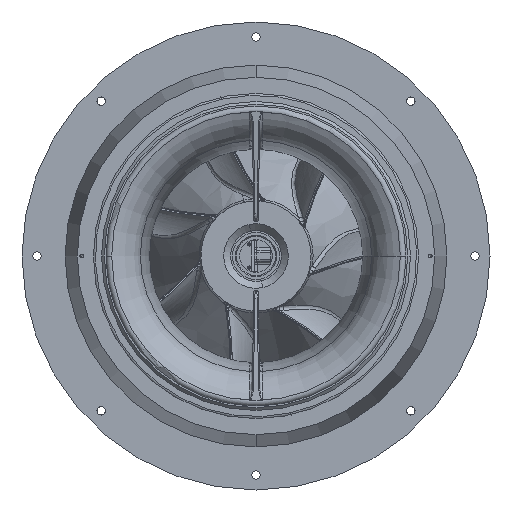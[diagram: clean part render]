
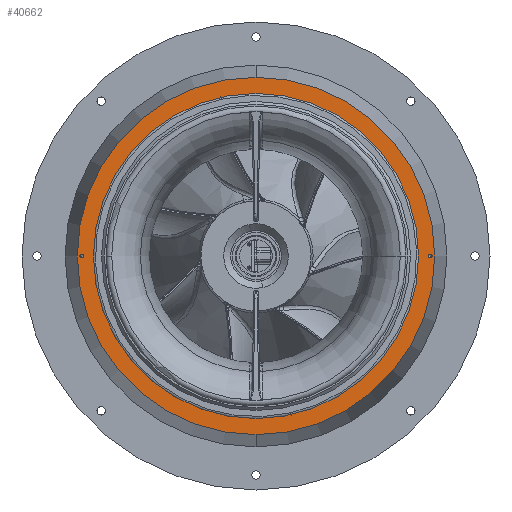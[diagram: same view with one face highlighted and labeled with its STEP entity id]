
A CAD part, front view. The second image highlights one B-rep face of the part: STEP entity #40662.
In plain terms, the highlighted planar face has unit normal (0, -1, 0).
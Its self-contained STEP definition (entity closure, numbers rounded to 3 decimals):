
#1690 = EDGE_CURVE ( 'NONE', #137077, #111543, #137539, .T. ) ;
#3740 = CARTESIAN_POINT ( 'NONE',  ( 0., -725.866, 0. ) ) ;
#3788 = VERTEX_POINT ( 'NONE', #7995 ) ;
#4495 = VERTEX_POINT ( 'NONE', #19449 ) ;
#7995 = CARTESIAN_POINT ( 'NONE',  ( 377.5, -725.866, 4.25 ) ) ;
#9771 = AXIS2_PLACEMENT_3D ( 'NONE', #58478, #80153, #39597 ) ;
#19449 = CARTESIAN_POINT ( 'NONE',  ( 0., -725.866, -387.5 ) ) ;
#23312 = DIRECTION ( 'NONE',  ( 0., -1., 0. ) ) ;
#25189 = CARTESIAN_POINT ( 'NONE',  ( 377.5, -725.866, 0. ) ) ;
#26426 = ORIENTED_EDGE ( 'NONE', *, *, #44266, .F. ) ;
#31189 = CARTESIAN_POINT ( 'NONE',  ( -377.5, -725.866, 4.25 ) ) ;
#39335 = CARTESIAN_POINT ( 'NONE',  ( 0., -725.866, 0. ) ) ;
#39597 = DIRECTION ( 'NONE',  ( 0., 0., -1. ) ) ;
#40662 = ADVANCED_FACE ( 'NONE', ( #88463, #179957, #78420, #95223 ), #91823, .T. ) ;
#41791 = ORIENTED_EDGE ( 'NONE', *, *, #203191, .F. ) ;
#42107 = AXIS2_PLACEMENT_3D ( 'NONE', #201528, #116445, #266874 ) ;
#44266 = EDGE_CURVE ( 'NONE', #215775, #3788, #124943, .T. ) ;
#51028 = EDGE_LOOP ( 'NONE', ( #59464, #198311 ) ) ;
#55959 = CIRCLE ( 'NONE', #130425, 387.5 ) ;
#56601 = CARTESIAN_POINT ( 'NONE',  ( 0., -725.866, 352.5 ) ) ;
#58478 = CARTESIAN_POINT ( 'NONE',  ( 0., -725.866, 0. ) ) ;
#59464 = ORIENTED_EDGE ( 'NONE', *, *, #1690, .F. ) ;
#64640 = EDGE_LOOP ( 'NONE', ( #221763, #78679 ) ) ;
#65072 = AXIS2_PLACEMENT_3D ( 'NONE', #106329, #257761, #128115 ) ;
#78410 = EDGE_CURVE ( 'NONE', #198106, #106532, #229700, .T. ) ;
#78420 = FACE_OUTER_BOUND ( 'NONE', #64640, .T. ) ;
#78679 = ORIENTED_EDGE ( 'NONE', *, *, #174912, .T. ) ;
#80153 = DIRECTION ( 'NONE',  ( 0., -1., 0. ) ) ;
#86531 = AXIS2_PLACEMENT_3D ( 'NONE', #95407, #138944, #121845 ) ;
#88463 = FACE_BOUND ( 'NONE', #141610, .T. ) ;
#89671 = DIRECTION ( 'NONE',  ( 0., 0., -1. ) ) ;
#91823 = PLANE ( 'NONE',  #42107 ) ;
#92421 = DIRECTION ( 'NONE',  ( 0., -1., 0. ) ) ;
#95223 = FACE_BOUND ( 'NONE', #51028, .T. ) ;
#95407 = CARTESIAN_POINT ( 'NONE',  ( -377.5, -725.866, 0. ) ) ;
#96954 = EDGE_LOOP ( 'NONE', ( #26426, #131879 ) ) ;
#98014 = EDGE_CURVE ( 'NONE', #3788, #215775, #217618, .T. ) ;
#99924 = DIRECTION ( 'NONE',  ( 0., 0., -1. ) ) ;
#106329 = CARTESIAN_POINT ( 'NONE',  ( 377.5, -725.866, 0. ) ) ;
#106532 = VERTEX_POINT ( 'NONE', #31189 ) ;
#111543 = VERTEX_POINT ( 'NONE', #56601 ) ;
#114491 = DIRECTION ( 'NONE',  ( 0., 0., -1. ) ) ;
#116445 = DIRECTION ( 'NONE',  ( 0., -1., 0. ) ) ;
#121845 = DIRECTION ( 'NONE',  ( 0., 0., -1. ) ) ;
#124943 = CIRCLE ( 'NONE', #65072, 4.25 ) ;
#128115 = DIRECTION ( 'NONE',  ( 0., 0., -1. ) ) ;
#130425 = AXIS2_PLACEMENT_3D ( 'NONE', #135307, #266841, #114491 ) ;
#131879 = ORIENTED_EDGE ( 'NONE', *, *, #98014, .F. ) ;
#135307 = CARTESIAN_POINT ( 'NONE',  ( 0., -725.866, 0. ) ) ;
#137077 = VERTEX_POINT ( 'NONE', #241864 ) ;
#137539 = CIRCLE ( 'NONE', #9771, 352.5 ) ;
#138938 = AXIS2_PLACEMENT_3D ( 'NONE', #147197, #187932, #99924 ) ;
#138944 = DIRECTION ( 'NONE',  ( 0., -1., 0. ) ) ;
#139878 = CARTESIAN_POINT ( 'NONE',  ( 0., -725.866, 387.5 ) ) ;
#141610 = EDGE_LOOP ( 'NONE', ( #152103, #41791 ) ) ;
#147197 = CARTESIAN_POINT ( 'NONE',  ( -377.5, -725.866, 0. ) ) ;
#152103 = ORIENTED_EDGE ( 'NONE', *, *, #78410, .F. ) ;
#174912 = EDGE_CURVE ( 'NONE', #247019, #4495, #177027, .T. ) ;
#177027 = CIRCLE ( 'NONE', #247145, 387.5 ) ;
#179957 = FACE_BOUND ( 'NONE', #96954, .T. ) ;
#187932 = DIRECTION ( 'NONE',  ( 0., -1., 0. ) ) ;
#190590 = DIRECTION ( 'NONE',  ( 0., -1., 0. ) ) ;
#191814 = CARTESIAN_POINT ( 'NONE',  ( 377.5, -725.866, -4.25 ) ) ;
#194283 = DIRECTION ( 'NONE',  ( 0., 0., -1. ) ) ;
#198106 = VERTEX_POINT ( 'NONE', #229757 ) ;
#198311 = ORIENTED_EDGE ( 'NONE', *, *, #226307, .F. ) ;
#201528 = CARTESIAN_POINT ( 'NONE',  ( 387.5, -725.866, 0. ) ) ;
#203191 = EDGE_CURVE ( 'NONE', #106532, #198106, #259054, .T. ) ;
#215775 = VERTEX_POINT ( 'NONE', #191814 ) ;
#217618 = CIRCLE ( 'NONE', #252219, 4.25 ) ;
#220684 = EDGE_CURVE ( 'NONE', #4495, #247019, #55959, .T. ) ;
#221763 = ORIENTED_EDGE ( 'NONE', *, *, #220684, .T. ) ;
#226307 = EDGE_CURVE ( 'NONE', #111543, #137077, #252699, .T. ) ;
#229700 = CIRCLE ( 'NONE', #138938, 4.25 ) ;
#229757 = CARTESIAN_POINT ( 'NONE',  ( -377.5, -725.866, -4.25 ) ) ;
#235357 = AXIS2_PLACEMENT_3D ( 'NONE', #3740, #92421, #89671 ) ;
#238869 = DIRECTION ( 'NONE',  ( 0., 0., -1. ) ) ;
#241864 = CARTESIAN_POINT ( 'NONE',  ( 0., -725.866, -352.5 ) ) ;
#247019 = VERTEX_POINT ( 'NONE', #139878 ) ;
#247145 = AXIS2_PLACEMENT_3D ( 'NONE', #39335, #190590, #194283 ) ;
#252219 = AXIS2_PLACEMENT_3D ( 'NONE', #25189, #23312, #238869 ) ;
#252699 = CIRCLE ( 'NONE', #235357, 352.5 ) ;
#257761 = DIRECTION ( 'NONE',  ( 0., -1., 0. ) ) ;
#259054 = CIRCLE ( 'NONE', #86531, 4.25 ) ;
#266841 = DIRECTION ( 'NONE',  ( 0., -1., 0. ) ) ;
#266874 = DIRECTION ( 'NONE',  ( 0., 0., -1. ) ) ;
